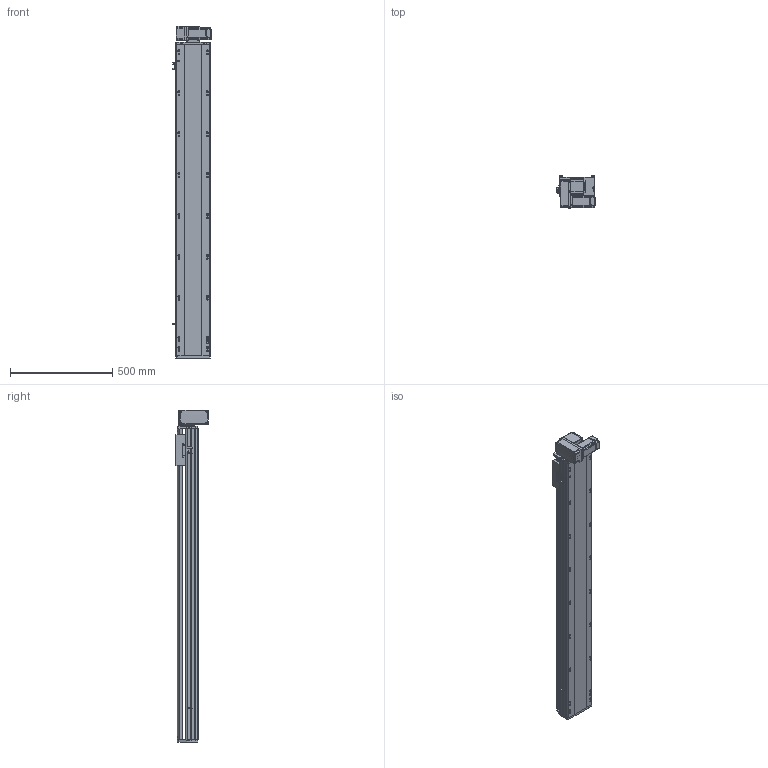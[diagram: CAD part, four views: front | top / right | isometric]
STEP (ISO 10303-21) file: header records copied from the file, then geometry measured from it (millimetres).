
FILE_DESCRIPTION (( 'STEP AP214' ), '1' );
FILE_NAME ('RTB17S-XX-1250-LM-M40-C4.STEP', '2025-12-11T06:28:00', ( '' ), ( '' ), 'SwSTEP 2.0', 'SolidWorks 2018', '' );
FILE_SCHEMA (( 'AUTOMOTIVE_DESIGN' ));
Length unit declared in the file: millimetre
Products named in the file (14): RTB17S-LM-々湍釱蚾饜-400W^RTB17S-XX-XX-LM-M40-C4; RTB14-L-018P^RTB17S-LM-々湍釱蚾饜-400W_RTB17S-XX-XX-LM-M40-C4; 400W侜督萇儂^RTB17S-XX-XX-LM-M40-C4; RTB14-L-005P--轴承塑胶压盖^RTB17S-LM-皮带座装配-400W_RTB17S-XX-XX-LM-M40-C4; RTB17S-L-007奻裔^RTB17S-XX-XX-LM-M40-C4; OMRON EE-SX672 传感器^RTB17S-XX-XX-LM-M40-C4; RTB17-R-011菁釱^RTB17S-XX-XX-LM-M40-C4; RTB14-L-017P^RTB17S-LM-々湍釱蚾饜-400W_RTB17S-XX-XX-LM-M40-C4; RTB17S-L-004佪裝蹟譫蟀諉釱^RTB17S-XX-XX-LM-M40-C4; RTB14-L-008-M20--萇儂啣^RTB17S-LM-々湍釱蚾饜-400W_RTB17S-XX-XX-LM-M40-C4; RTB17S-XX-1250-LM-M40-C4; RMP17S-L-014-T20--々湍釱^RTB17S-LM-々湍釱蚾饜-400W_RTB17S-XX-XX-LM-M40-C4; RTB17S-L-001耜醱啣^RTB17S-XX-XX-LM-M40-C4; RTH13-BL-012覜茼え俋离^RTB17S-XX-XX-LM-M40-C4
Assembly tree (16 placements, depth 3):
  RTB17S-XX-1250-LM-M40-C4
    RTB17-R-011菁釱^RTB17S-XX-XX-LM-M40-C4
    RTB17S-L-007奻裔^RTB17S-XX-XX-LM-M40-C4
    OMRON EE-SX672 传感器^RTB17S-XX-XX-LM-M40-C4  x3
    RTH13-BL-012覜茼え俋离^RTB17S-XX-XX-LM-M40-C4
    RTB17S-L-001耜醱啣^RTB17S-XX-XX-LM-M40-C4
    400W侜督萇儂^RTB17S-XX-XX-LM-M40-C4
    RTB17S-L-004佪裝蹟譫蟀諉釱^RTB17S-XX-XX-LM-M40-C4
    RTB17S-LM-々湍釱蚾饜-400W^RTB17S-XX-XX-LM-M40-C4
      RMP17S-L-014-T20--々湍釱^RTB17S-LM-々湍釱蚾饜-400W_RTB17S-XX-XX-LM-M40-C4
      RTB14-L-005P--轴承塑胶压盖^RTB17S-LM-皮带座装配-400W_RTB17S-XX-XX-LM-M40-C4
      RTB14-L-008-M20--萇儂啣^RTB17S-LM-々湍釱蚾饜-400W_RTB17S-XX-XX-LM-M40-C4
      RTB14-L-017P^RTB17S-LM-々湍釱蚾饜-400W_RTB17S-XX-XX-LM-M40-C4  x2
      RTB14-L-018P^RTB17S-LM-々湍釱蚾饜-400W_RTB17S-XX-XX-LM-M40-C4
Bounding box: 186 x 156.5 x 1622.5 mm (x, y, z)
Volume: 14407850.3 mm3; surface area: 1722186.3 mm2
Topology: 15 solids, 15 shells, 2237 faces, 6195 edges, 4041 vertices
Faces by surface type: plane 1072, cylinder 717, bspline 301, cone 139, torus 8
Entity records: 64169 total; most frequent: CARTESIAN_POINT 18000, ORIENTED_EDGE 9234, DIRECTION 8576, EDGE_CURVE 4617, VERTEX_POINT 3029, AXIS2_PLACEMENT_3D 2959, VECTOR 2658, LINE 2658
